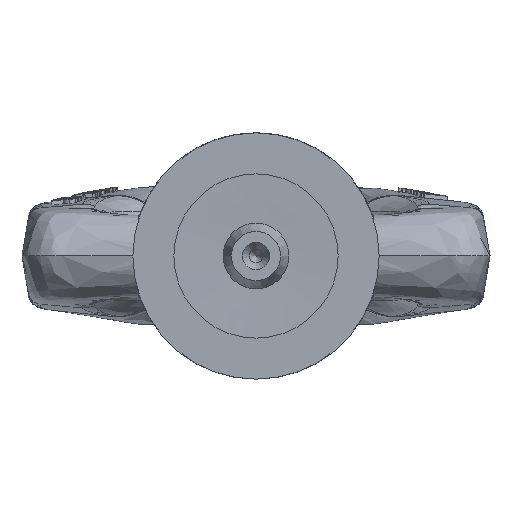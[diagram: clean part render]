
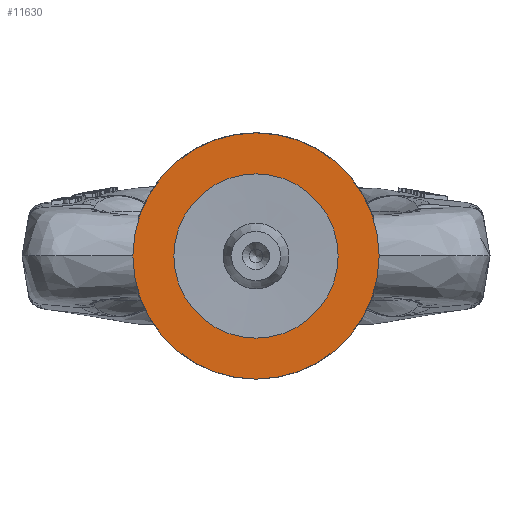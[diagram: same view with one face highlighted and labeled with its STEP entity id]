
A CAD part, front view. The second image highlights one B-rep face of the part: STEP entity #11630.
In plain terms, the highlighted planar face has unit normal (0, -1, 0) as drawn and (0, 0, -1) by its records, which use the part's own axes.
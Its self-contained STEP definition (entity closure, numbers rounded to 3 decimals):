
#251=FACE_BOUND('',#2275,.T.);
#588=CIRCLE('',#12368,15.);
#595=CIRCLE('',#12382,10.);
#861=PLANE('',#12385);
#1512=FACE_OUTER_BOUND('',#2274,.T.);
#2274=EDGE_LOOP('',(#10306));
#2275=EDGE_LOOP('',(#10307));
#5244=VERTEX_POINT('',#42814);
#5251=VERTEX_POINT('',#42835);
#6944=EDGE_CURVE('',#5244,#5244,#588,.T.);
#6951=EDGE_CURVE('',#5251,#5251,#595,.T.);
#10306=ORIENTED_EDGE('',*,*,#6944,.T.);
#10307=ORIENTED_EDGE('',*,*,#6951,.F.);
#11630=ADVANCED_FACE('',(#1512,#251),#861,.F.);
#12368=AXIS2_PLACEMENT_3D('',#42815,#14178,#14179);
#12382=AXIS2_PLACEMENT_3D('',#42836,#14206,#14207);
#12385=AXIS2_PLACEMENT_3D('',#42840,#14212,#14213);
#14178=DIRECTION('center_axis',(0.,0.,-1.));
#14179=DIRECTION('ref_axis',(-1.,0.,0.));
#14206=DIRECTION('center_axis',(0.,0.,-1.));
#14207=DIRECTION('ref_axis',(-1.,0.,0.));
#14212=DIRECTION('center_axis',(0.,0.,1.));
#14213=DIRECTION('ref_axis',(1.,0.,0.));
#42814=CARTESIAN_POINT('',(15.,0.,0.));
#42815=CARTESIAN_POINT('Origin',(0.,0.,0.));
#42835=CARTESIAN_POINT('',(10.,0.,0.));
#42836=CARTESIAN_POINT('Origin',(0.,0.,0.));
#42840=CARTESIAN_POINT('Origin',(0.,0.,0.));
